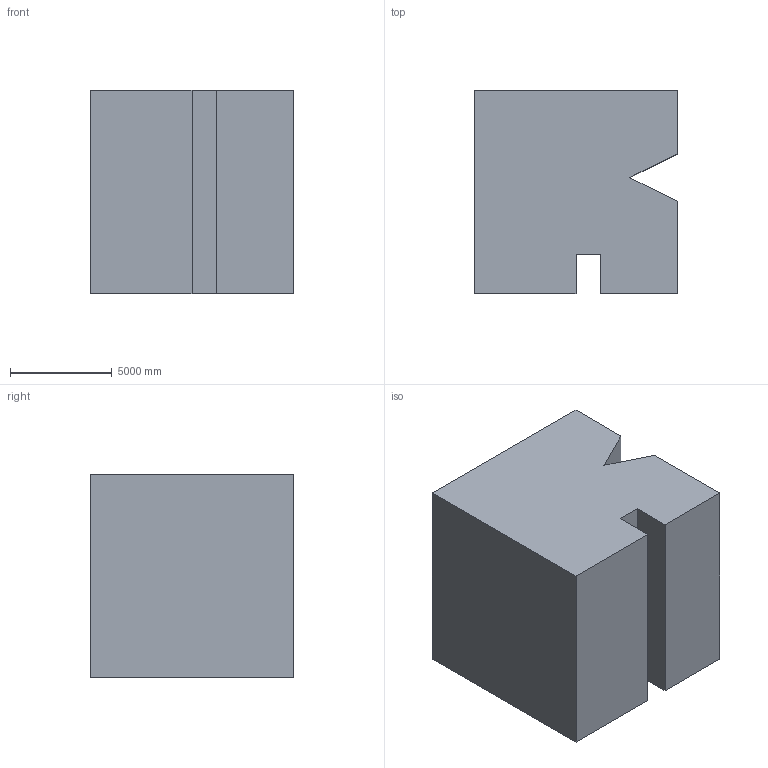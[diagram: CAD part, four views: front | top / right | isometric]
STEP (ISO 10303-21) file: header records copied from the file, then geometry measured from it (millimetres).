
FILE_DESCRIPTION (( 'STEP AP203' ), '1' );
FILE_NAME ('104.STEP', '2022-09-05T15:32:38', ( 'user' ), ( '' ), 'SwSTEP 2.0', 'SolidWorks 2021', '' );
FILE_SCHEMA (( 'CONFIG_CONTROL_DESIGN' ));
Length unit declared in the file: centimetre
Products named in the file (1): 104
Bounding box: 10000 x 10000 x 10000 mm (x, y, z)
Volume: 949521162572 mm3; surface area: 657734207.2 mm2
Topology: 1 solids, 1 shells, 13 faces, 33 edges, 22 vertices
Faces by surface type: plane 13
Entity records: 464 total; most frequent: CARTESIAN_POINT 69, ORIENTED_EDGE 66, DIRECTION 61, EDGE_CURVE 33, VECTOR 33, LINE 33, VERTEX_POINT 22, AXIS2_PLACEMENT_3D 14
